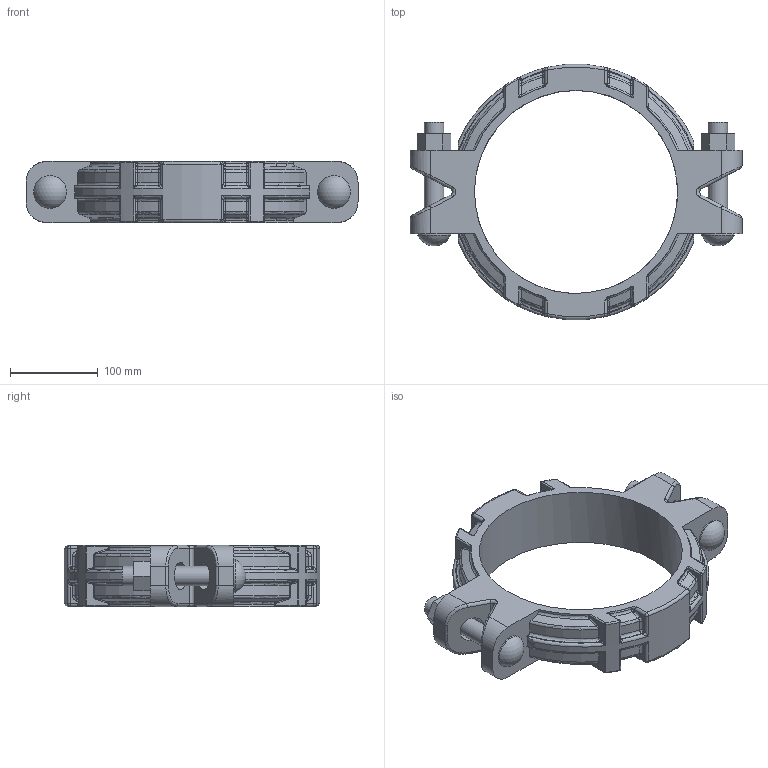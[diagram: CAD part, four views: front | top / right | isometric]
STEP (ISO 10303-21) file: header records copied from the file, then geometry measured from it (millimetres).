
FILE_DESCRIPTION(/* description */ ('VIC COUPLING STYLE XL 79','CAx-IF Rec.Pracs.---Representation and Presentation of Product Manufacturing Information (PMI)---4.0---2014-10-13'),/* implementation_level */ '2;1');
FILE_NAME(/* name */ 'C:\Users\kkamble\AppData\Roaming\Autodesk\ApplicationPlugins\Back Up\Victaulic_IPS-XL_Coupling_Style XL79 (XLG)\Victaulic_IPS-XL_Coupling_Style XL79 (XLG)_8 (200).stp',/* time_stamp */ '2020-08-05T13:50:03+05:00',/* author */ ('jheald'),/* organization */ ('Victaulic'),/* preprocessor_version */ 'ST-DEVELOPER v17.2',/* originating_system */ 'Autodesk Inventor 2019',/* authorisation */ '');
FILE_SCHEMA (('AP242_MANAGED_MODEL_BASED_3D_ENGINEERING_MIM_LF { 1 0 10303 442 1 1 4 }'));
Length unit declared in the file: inch
Products named in the file (1): XL79-08.0
Bounding box: 378.87 x 291.25 x 69.85 mm (x, y, z)
Volume: 1893319.9 mm3; surface area: 222871.2 mm2
Topology: 1 solids, 1 shells, 575 faces, 1375 edges, 788 vertices
Faces by surface type: cylinder 187, bspline 168, plane 82, torus 80, sphere 42, cone 16
Full cylindrical faces by diameter (mm): 22.225 x4, 37.694 x2, 231.775 x1
Entity records: 22735 total; most frequent: CARTESIAN_POINT 9806, ORIENTED_EDGE 2702, DIRECTION 2373, EDGE_CURVE 1351, AXIS2_PLACEMENT_3D 997, VERTEX_POINT 788, EDGE_LOOP 591, STYLED_ITEM 577
